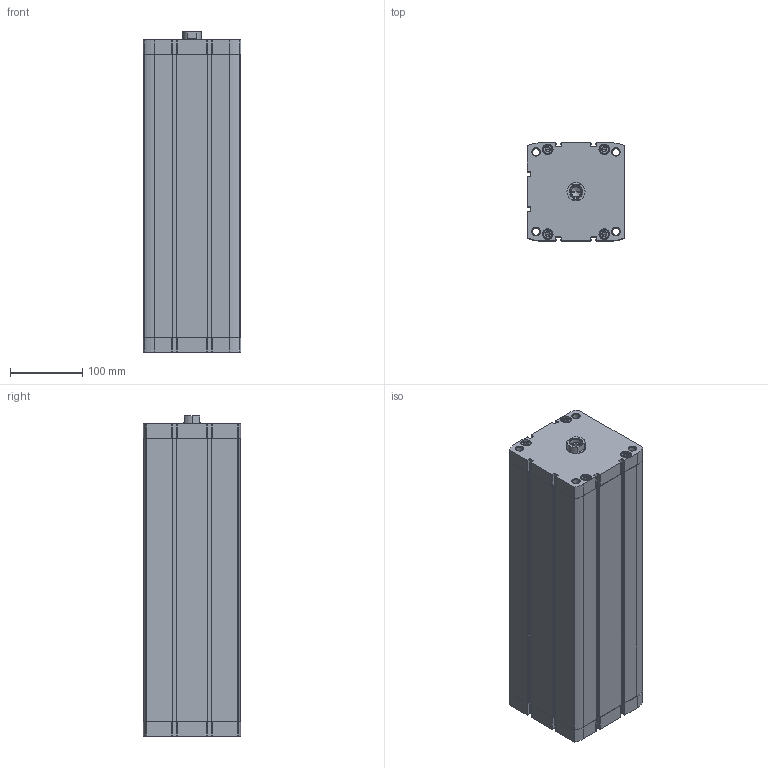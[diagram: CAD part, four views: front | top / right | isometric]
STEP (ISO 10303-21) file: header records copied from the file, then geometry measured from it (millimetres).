
FILE_DESCRIPTION (( 'STEP AP203' ), '1' );
FILE_NAME ('CCN125-350F.STEP', '2020-06-05T19:31:27', ( '' ), ( '' ), 'SwSTEP 2.0', 'SolidWorks 2019', '' );
FILE_SCHEMA (( 'CONFIG_CONTROL_DESIGN' ));
Length unit declared in the file: millimetre
Products named in the file (1): CCN125-350F
Bounding box: 134.6 x 134.6 x 442 mm (x, y, z)
Volume: 3344718.4 mm3; surface area: 599690.3 mm2
Topology: 2 solids, 2 shells, 535 faces, 1370 edges, 861 vertices
Faces by surface type: plane 267, cylinder 194, cone 74
Entity records: 17215 total; most frequent: CARTESIAN_POINT 3931, DIRECTION 2876, ORIENTED_EDGE 2704, EDGE_CURVE 1352, AXIS2_PLACEMENT_3D 1054, VERTEX_POINT 861, VECTOR 768, LINE 768
